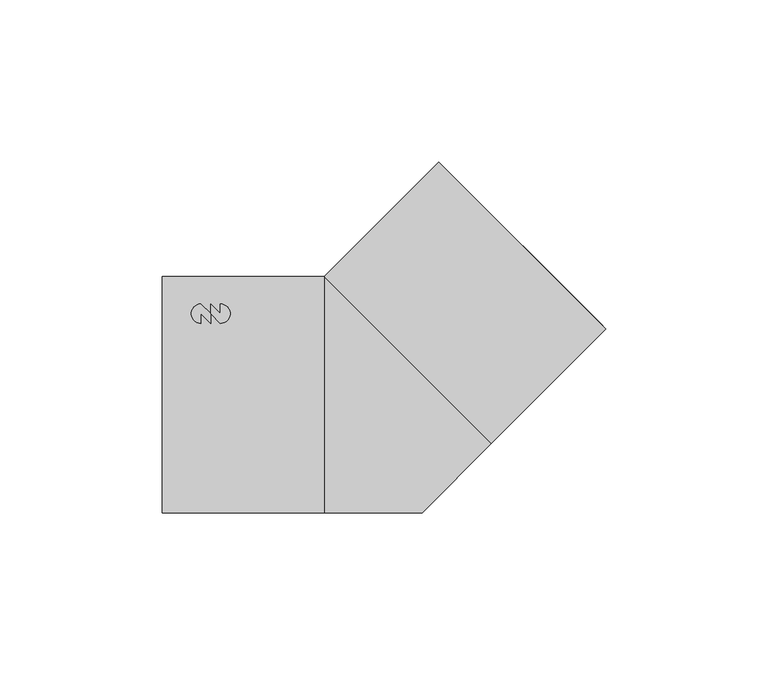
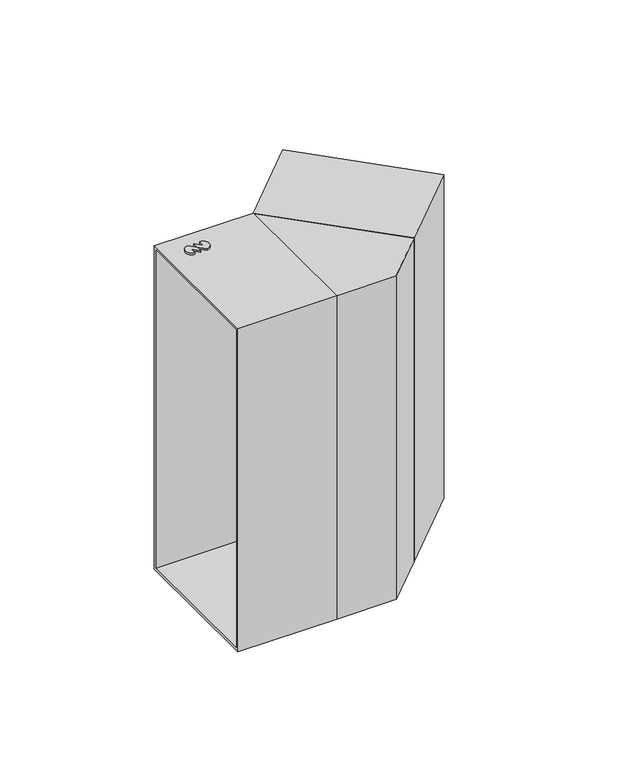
"""IFC4 building model written with IfcOpenShell, lengths in millimetres: duct fitting geometry, NLRS_57_DUF_UN_instortkanaal-staande-haakse-bocht-45_LT_velu : Staande bocht 45."""

from ifc_helpers import new_model, si_unit, point, frame, frame_2d, origin, place, context, project, spatial, polyline, circle_curve, trimmed, segment, composite_curve, outline, extrude, source, transform, mapped, element, save


def duct_fitting_72918f3c(model_context):
    return source(origin(), model_context, "Body", "SweptSolid", [
        extrude(outline(composite_curve([segment(trimmed(circle_curve(frame_2d((-32.0, 25.0)), 3.0), [point((-32.0, 28.0))], [point((-32.0, 22.0))], False, "CARTESIAN"), True, "CONTINUOUS"), segment(polyline([(-32.0, 22.0), (-35.0, 25.0), (-35.0, 28.0), (-32.0, 25.0), (-32.0, 28.0)]), True, "CONTINUOUS")], self_intersect=False)), frame((0.0, 0.0, -87.5), z_axis=(0.0, 0.0, 1.0), x_axis=(1.0, 0.0, 0.0)), (0.0, 0.0, 1.0), 1.0),
        extrude(outline(composite_curve([segment(trimmed(circle_curve(frame_2d((-38.0, 25.0)), 3.0), [point((-38.0, 22.0))], [point((-38.0, 28.0))], False, "CARTESIAN"), True, "CONTINUOUS"), segment(polyline([(-38.0, 28.0), (-35.0, 25.0), (-35.0, 22.0), (-38.0, 25.0), (-38.0, 22.0)]), True, "CONTINUOUS")], self_intersect=False)), frame((0.0, 0.0, -87.5), z_axis=(0.0, 0.0, 1.0), x_axis=(1.0, 0.0, 0.0)), (0.0, 0.0, 1.0), 1.0),
        extrude(outline(composite_curve([segment(trimmed(circle_curve(frame_2d((-32.0, 25.0)), 3.0), [point((-32.0, 28.0))], [point((-32.0, 22.0))], False, "CARTESIAN"), True, "CONTINUOUS"), segment(polyline([(-32.0, 22.0), (-35.0, 25.0), (-35.0, 28.0), (-32.0, 25.0), (-32.0, 28.0)]), True, "CONTINUOUS")], self_intersect=False)), frame((0.0, 0.0, 86.5), z_axis=(0.0, 0.0, 1.0), x_axis=(1.0, 0.0, 0.0)), (0.0, 0.0, 1.0), 1.0),
        extrude(outline(composite_curve([segment(trimmed(circle_curve(frame_2d((-38.0, 25.0)), 3.0), [point((-38.0, 22.0))], [point((-38.0, 28.0))], False, "CARTESIAN"), True, "CONTINUOUS"), segment(polyline([(-38.0, 28.0), (-35.0, 25.0), (-35.0, 22.0), (-38.0, 25.0), (-38.0, 22.0)]), True, "CONTINUOUS")], self_intersect=False)), frame((0.0, 0.0, 86.5), z_axis=(0.0, 0.0, 1.0), x_axis=(1.0, 0.0, 0.0)), (0.0, 0.0, 1.0), 1.0),
        extrude(outline(polyline([(-36.5, 86.5), (36.5, 86.5), (36.5, -86.5), (-36.5, -86.5), (-36.5, 86.5)]), holes=[polyline([(-35.0, -85.0), (35.0, -85.0), (35.0, 85.0), (-35.0, 85.0), (-35.0, -85.0)])]), frame((-50.0, 0.0, 0.0), z_axis=(1.0, 0.0, 0.0), x_axis=(0.0, 1.0, 0.0)), (0.0, 0.0, 1.0), 50.0),
        extrude(outline(polyline([(171.5, -1.4999999), (-1.5, -1.4999999), (-1.5, 71.5000001), (171.5, 71.5000001), (171.5, -1.4999999)]), holes=[polyline([(170.0, 70.0), (0.0, 70.0), (0.0, 0.0), (170.0, 0.0), (170.0, 70.0)])]), frame((50.5581349, -14.0581349, 85.0), z_axis=(0.7071067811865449, 0.7071067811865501, 0.0), x_axis=(0.0, 0.0, -1.0)), (0.0, 0.0, 1.0), 50.0),
        extrude(outline(polyline([(51.618795, -15.118795), (30.2375901, -36.5), (0.0, -36.5), (0.0, 36.5), (51.618795, -15.118795)])), frame((0.0, 0.0, -86.5), z_axis=(0.0, 0.0, 1.0), x_axis=(1.0, 0.0, 0.0)), (0.0, 0.0, 1.0), 173.0),
    ])


if __name__ == "__main__":
    model = new_model("IFC4")
    model_context = context("Model", 3, world=origin())
    ifc_project = project(units=[si_unit("LENGTHUNIT", "METRE", prefix="MILLI")], contexts=[model_context])
    site = spatial("IfcSite", under=ifc_project)
    building = spatial("IfcBuilding", under=site)
    placement = place(None, origin())
    duct_fitting_shape = duct_fitting_72918f3c(model_context)
    element("IfcDuctFitting", 1, ObjectType="NLRS_57_DUF_UN_instortkanaal-staande-haakse-bocht-45_LT_velu : Staande bocht 45", at=placement, inside=building, context=model_context, shape_type="MappedRepresentation", body=[
        mapped(duct_fitting_shape, transform((0.0, 0.0, 0.0), x_axis=(1.0, 0.0, 0.0), y_axis=(0.0, 1.0, 0.0), z_axis=(0.0, 0.0, 1.0))),
    ])
    save(model, "model.ifc")
